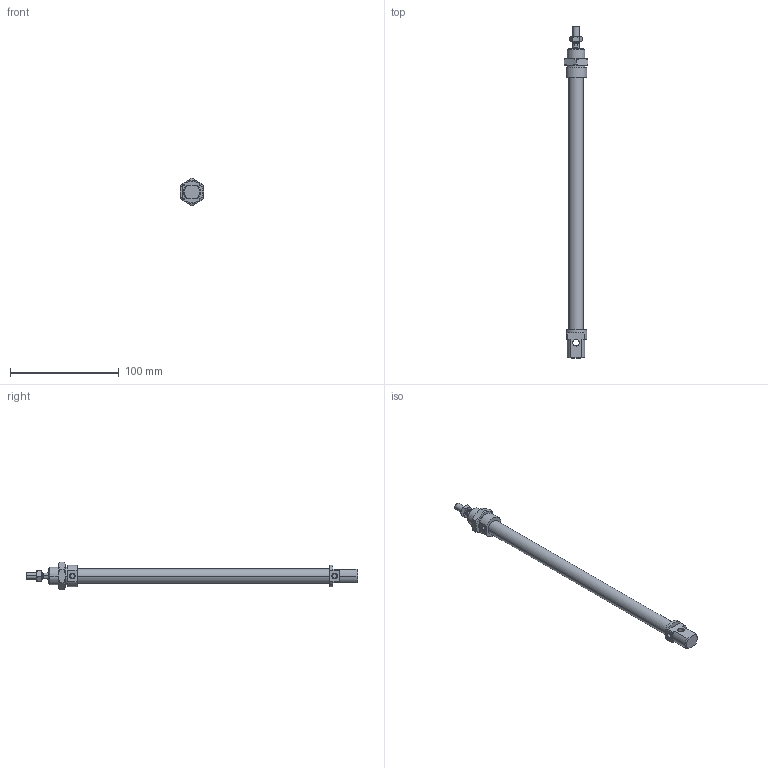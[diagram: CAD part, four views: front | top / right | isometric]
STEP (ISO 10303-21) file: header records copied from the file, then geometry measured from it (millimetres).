
FILE_DESCRIPTION((''),'2;1');
FILE_NAME('I:\DOC-EDP\Lib-3d\1200\CILINDRI\1280\1280_12_0200.stp','2003-04-07T14:50:59',('maffial1'),(''),'Autodesk Inventor (R) 6.0','Autodesk Inventor (R) 6.0','');
FILE_SCHEMA(('AUTOMOTIVE_DESIGN { 1 0 10303 214 1 1 1 1 }'));
Length unit declared in the file: millimetre
Products named in the file (5): 1280_12_0200; S1280_12_200; 1200_12_05; 1200_12_06; C1280_12_200
Assembly tree (4 placements, depth 2):
  1280_12_0200
    S1280_12_200
    1200_12_05
    1200_12_06
    C1280_12_200
Bounding box: 22 x 305 x 25.4 mm (x, y, z)
Volume: 44800.9 mm3; surface area: 24038.9 mm2
Topology: 4 solids, 4 shells, 121 faces, 268 edges, 162 vertices
Faces by surface type: cone 40, plane 39, cylinder 22, bspline 20
Entity records: 3653 total; most frequent: CARTESIAN_POINT 976, DIRECTION 556, ORIENTED_EDGE 536, EDGE_CURVE 268, AXIS2_PLACEMENT_3D 230, VERTEX_POINT 162, EDGE_LOOP 134, FACE_OUTER_BOUND 121
